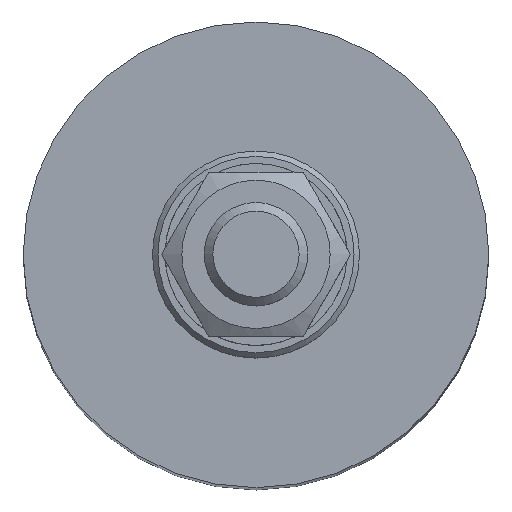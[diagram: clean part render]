
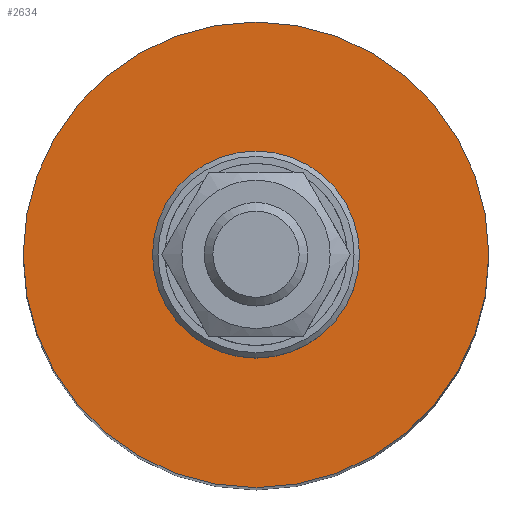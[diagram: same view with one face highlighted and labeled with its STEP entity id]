
A CAD part, top view. The second image highlights one B-rep face of the part: STEP entity #2634.
In plain terms, the highlighted planar face has unit normal (0, 0, 1).
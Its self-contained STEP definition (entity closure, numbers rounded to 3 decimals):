
#2501=CARTESIAN_POINT('',(4.3,7.448,160.0));
#2502=VERTEX_POINT('',#2501);
#2503=CARTESIAN_POINT('',(0.0,0.0,160.0));
#2504=DIRECTION('',(0.,0.,-1.0));
#2505=DIRECTION('',(0.5,0.866,0.));
#2506=AXIS2_PLACEMENT_3D('',#2503,#2504,#2505);
#2507=CIRCLE('',#2506,8.6);
#2508=EDGE_CURVE('',#2502,#2502,#2507,.T.);
#2615=CARTESIAN_POINT('',(0.,0.0,160.0));
#2616=DIRECTION('',(0.0,0.0,1.0));
#2617=DIRECTION('',(1.0,0.0,0.0));
#2618=AXIS2_PLACEMENT_3D('',#2615,#2616,#2617);
#2619=PLANE('',#2618);
#2620=CARTESIAN_POINT('',(27.0,0.,160.0));
#2621=VERTEX_POINT('',#2620);
#2622=CARTESIAN_POINT('',(0.0,0.0,160.0));
#2623=DIRECTION('',(0.0,0.0,1.0));
#2624=DIRECTION('',(-1.0,0.0,0.0));
#2625=AXIS2_PLACEMENT_3D('',#2622,#2623,#2624);
#2626=CIRCLE('',#2625,27.0);
#2627=EDGE_CURVE('',#2621,#2621,#2626,.T.);
#2628=ORIENTED_EDGE('',*,*,#2627,.T.);
#2629=EDGE_LOOP('',(#2628));
#2630=FACE_OUTER_BOUND('',#2629,.T.);
#2631=ORIENTED_EDGE('',*,*,#2508,.T.);
#2632=EDGE_LOOP('',(#2631));
#2633=FACE_BOUND('',#2632,.T.);
#2634=ADVANCED_FACE('',(#2630,#2633),#2619,.T.);
